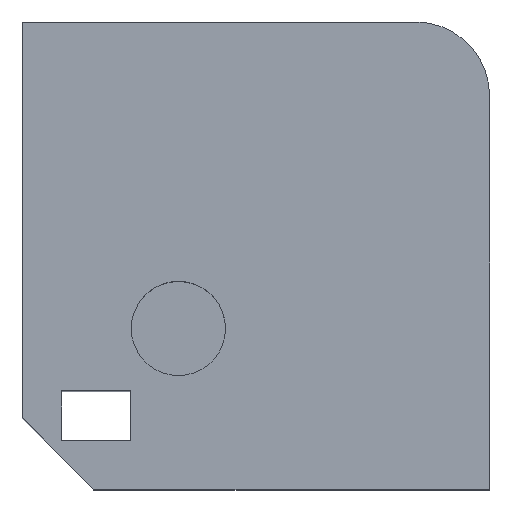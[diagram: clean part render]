
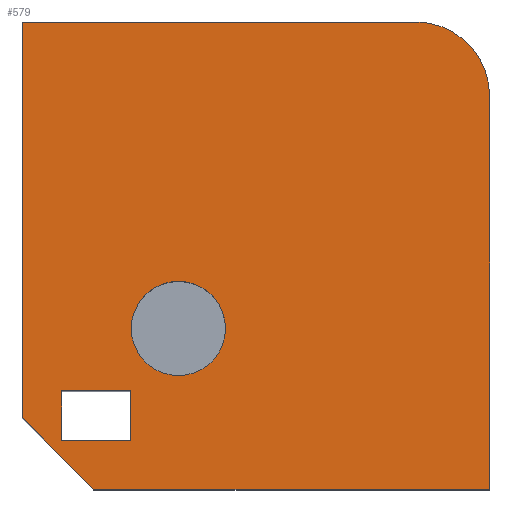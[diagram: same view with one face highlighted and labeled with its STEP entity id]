
A CAD part, top view. The second image highlights one B-rep face of the part: STEP entity #579.
In plain terms, the highlighted planar face has unit normal (0, 0, 1).
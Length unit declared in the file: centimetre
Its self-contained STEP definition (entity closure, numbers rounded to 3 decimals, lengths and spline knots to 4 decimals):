
#9 = DIRECTION ( 'NONE',  ( 0., 0., 1. ) ) ;
#12 = ORIENTED_EDGE ( 'NONE', *, *, #43, .F. ) ;
#27 = CARTESIAN_POINT ( 'NONE',  ( 233.018, 344.0505, 1000. ) ) ;
#33 = CARTESIAN_POINT ( 'NONE',  ( 232.1379, 210.5096, 1000. ) ) ;
#35 = ORIENTED_EDGE ( 'NONE', *, *, #678, .F. ) ;
#36 = DIRECTION ( 'NONE',  ( 0.707, -0.707, 0. ) ) ;
#43 = EDGE_CURVE ( 'NONE', #291, #483, #511, .T. ) ;
#48 = CARTESIAN_POINT ( 'NONE',  ( 1000., 0., 1000. ) ) ;
#60 = PLANE ( 'NONE',  #772 ) ;
#70 = VECTOR ( 'NONE', #240, 100. ) ;
#78 = VECTOR ( 'NONE', #769, 100. ) ;
#88 = CARTESIAN_POINT ( 'NONE',  ( 83.937, 104.5179, 1000. ) ) ;
#94 = VECTOR ( 'NONE', #336, 100. ) ;
#103 = ORIENTED_EDGE ( 'NONE', *, *, #779, .T. ) ;
#117 = DIRECTION ( 'NONE',  ( 1., 0., 0. ) ) ;
#124 = ORIENTED_EDGE ( 'NONE', *, *, #125, .T. ) ;
#125 = EDGE_CURVE ( 'NONE', #746, #600, #234, .T. ) ;
#126 = CARTESIAN_POINT ( 'NONE',  ( 83.937, 210.5096, 1000. ) ) ;
#130 = CARTESIAN_POINT ( 'NONE',  ( 83.937, 104.5179, 1000. ) ) ;
#136 = DIRECTION ( 'NONE',  ( -1., 0., 0. ) ) ;
#140 = VECTOR ( 'NONE', #136, 100. ) ;
#142 = LINE ( 'NONE', #804, #140 ) ;
#146 = VERTEX_POINT ( 'NONE', #384 ) ;
#156 = VECTOR ( 'NONE', #809, 100. ) ;
#160 = AXIS2_PLACEMENT_3D ( 'NONE', #451, #716, #117 ) ;
#183 = FACE_BOUND ( 'NONE', #432, .T. ) ;
#194 = EDGE_LOOP ( 'NONE', ( #124, #741, #521, #488, #413, #103 ) ) ;
#200 = DIRECTION ( 'NONE',  ( 1., 0., 0. ) ) ;
#204 = EDGE_CURVE ( 'NONE', #600, #255, #490, .T. ) ;
#207 = CARTESIAN_POINT ( 'NONE',  ( 841.8955, 841.8955, 1000. ) ) ;
#234 = LINE ( 'NONE', #795, #94 ) ;
#235 = VECTOR ( 'NONE', #200, 100. ) ;
#237 = CARTESIAN_POINT ( 'NONE',  ( 232.1379, 104.5179, 1000. ) ) ;
#240 = DIRECTION ( 'NONE',  ( 0., -1., 0. ) ) ;
#249 = DIRECTION ( 'NONE',  ( 0., 0., 1. ) ) ;
#255 = VERTEX_POINT ( 'NONE', #475 ) ;
#265 = DIRECTION ( 'NONE',  ( 0., -1., 0. ) ) ;
#266 = CARTESIAN_POINT ( 'NONE',  ( 152.5368, 0., 1000. ) ) ;
#291 = VERTEX_POINT ( 'NONE', #422 ) ;
#305 = ORIENTED_EDGE ( 'NONE', *, *, #831, .F. ) ;
#310 = CARTESIAN_POINT ( 'NONE',  ( 83.937, 104.5179, 1000. ) ) ;
#322 = VERTEX_POINT ( 'NONE', #27 ) ;
#328 = CARTESIAN_POINT ( 'NONE',  ( 0., 1000., 1000. ) ) ;
#336 = DIRECTION ( 'NONE',  ( 0., 1., 0. ) ) ;
#352 = EDGE_CURVE ( 'NONE', #813, #291, #626, .T. ) ;
#365 = CIRCLE ( 'NONE', #160, 100.8651 ) ;
#368 = EDGE_CURVE ( 'NONE', #146, #850, #818, .T. ) ;
#374 = VECTOR ( 'NONE', #265, 100. ) ;
#384 = CARTESIAN_POINT ( 'NONE',  ( 0., 152.5368, 1000. ) ) ;
#387 = DIRECTION ( 'NONE',  ( 0., 0., 1. ) ) ;
#393 = CARTESIAN_POINT ( 'NONE',  ( 0., 0., 1000. ) ) ;
#413 = ORIENTED_EDGE ( 'NONE', *, *, #368, .T. ) ;
#416 = ORIENTED_EDGE ( 'NONE', *, *, #452, .F. ) ;
#422 = CARTESIAN_POINT ( 'NONE',  ( 232.1379, 104.5179, 1000. ) ) ;
#432 = EDGE_LOOP ( 'NONE', ( #305, #636 ) ) ;
#444 = AXIS2_PLACEMENT_3D ( 'NONE', #207, #249, #608 ) ;
#451 = CARTESIAN_POINT ( 'NONE',  ( 333.8831, 344.0505, 1000. ) ) ;
#452 = EDGE_CURVE ( 'NONE', #483, #574, #763, .T. ) ;
#457 = ORIENTED_EDGE ( 'NONE', *, *, #352, .F. ) ;
#463 = FACE_BOUND ( 'NONE', #845, .T. ) ;
#468 = LINE ( 'NONE', #852, #235 ) ;
#475 = CARTESIAN_POINT ( 'NONE',  ( 841.8955, 1000., 1000. ) ) ;
#483 = VERTEX_POINT ( 'NONE', #33 ) ;
#488 = ORIENTED_EDGE ( 'NONE', *, *, #767, .T. ) ;
#490 = CIRCLE ( 'NONE', #444, 158.1045 ) ;
#498 = CARTESIAN_POINT ( 'NONE',  ( 76.2684, 76.2684, 1000. ) ) ;
#511 = LINE ( 'NONE', #237, #78 ) ;
#512 = DIRECTION ( 'NONE',  ( 1., 0., 0. ) ) ;
#519 = CARTESIAN_POINT ( 'NONE',  ( 434.7482, 344.0505, 1000. ) ) ;
#521 = ORIENTED_EDGE ( 'NONE', *, *, #648, .T. ) ;
#554 = VERTEX_POINT ( 'NONE', #519 ) ;
#559 = DIRECTION ( 'NONE',  ( -1., 0., 0. ) ) ;
#574 = VERTEX_POINT ( 'NONE', #126 ) ;
#579 = ADVANCED_FACE ( 'NONE', ( #183, #463, #838 ), #60, .T. ) ;
#580 = CARTESIAN_POINT ( 'NONE',  ( 333.8831, 344.0505, 1000. ) ) ;
#596 = CARTESIAN_POINT ( 'NONE',  ( 1000., 841.8955, 1000. ) ) ;
#600 = VERTEX_POINT ( 'NONE', #596 ) ;
#608 = DIRECTION ( 'NONE',  ( 1., 0., 0. ) ) ;
#610 = EDGE_CURVE ( 'NONE', #322, #554, #365, .T. ) ;
#612 = LINE ( 'NONE', #130, #374 ) ;
#626 = LINE ( 'NONE', #88, #156 ) ;
#636 = ORIENTED_EDGE ( 'NONE', *, *, #610, .F. ) ;
#639 = VECTOR ( 'NONE', #36, 100. ) ;
#641 = AXIS2_PLACEMENT_3D ( 'NONE', #580, #9, #512 ) ;
#642 = VECTOR ( 'NONE', #559, 100. ) ;
#648 = EDGE_CURVE ( 'NONE', #255, #679, #142, .T. ) ;
#656 = DIRECTION ( 'NONE',  ( 1., 0., 0. ) ) ;
#666 = CARTESIAN_POINT ( 'NONE',  ( 0., 1000., 1000. ) ) ;
#678 = EDGE_CURVE ( 'NONE', #574, #813, #612, .T. ) ;
#679 = VERTEX_POINT ( 'NONE', #328 ) ;
#701 = CARTESIAN_POINT ( 'NONE',  ( 83.937, 210.5096, 1000. ) ) ;
#716 = DIRECTION ( 'NONE',  ( 0., 0., 1. ) ) ;
#741 = ORIENTED_EDGE ( 'NONE', *, *, #204, .T. ) ;
#746 = VERTEX_POINT ( 'NONE', #48 ) ;
#763 = LINE ( 'NONE', #701, #642 ) ;
#767 = EDGE_CURVE ( 'NONE', #679, #146, #773, .T. ) ;
#769 = DIRECTION ( 'NONE',  ( 0., 1., 0. ) ) ;
#772 = AXIS2_PLACEMENT_3D ( 'NONE', #393, #387, #656 ) ;
#773 = LINE ( 'NONE', #666, #70 ) ;
#779 = EDGE_CURVE ( 'NONE', #850, #746, #468, .T. ) ;
#795 = CARTESIAN_POINT ( 'NONE',  ( 1000., 1000., 1000. ) ) ;
#803 = CIRCLE ( 'NONE', #641, 100.8651 ) ;
#804 = CARTESIAN_POINT ( 'NONE',  ( 0., 1000., 1000. ) ) ;
#809 = DIRECTION ( 'NONE',  ( 1., 0., 0. ) ) ;
#813 = VERTEX_POINT ( 'NONE', #310 ) ;
#818 = LINE ( 'NONE', #498, #639 ) ;
#831 = EDGE_CURVE ( 'NONE', #554, #322, #803, .T. ) ;
#838 = FACE_OUTER_BOUND ( 'NONE', #194, .T. ) ;
#845 = EDGE_LOOP ( 'NONE', ( #35, #416, #12, #457 ) ) ;
#850 = VERTEX_POINT ( 'NONE', #266 ) ;
#852 = CARTESIAN_POINT ( 'NONE',  ( 0., 0., 1000. ) ) ;
